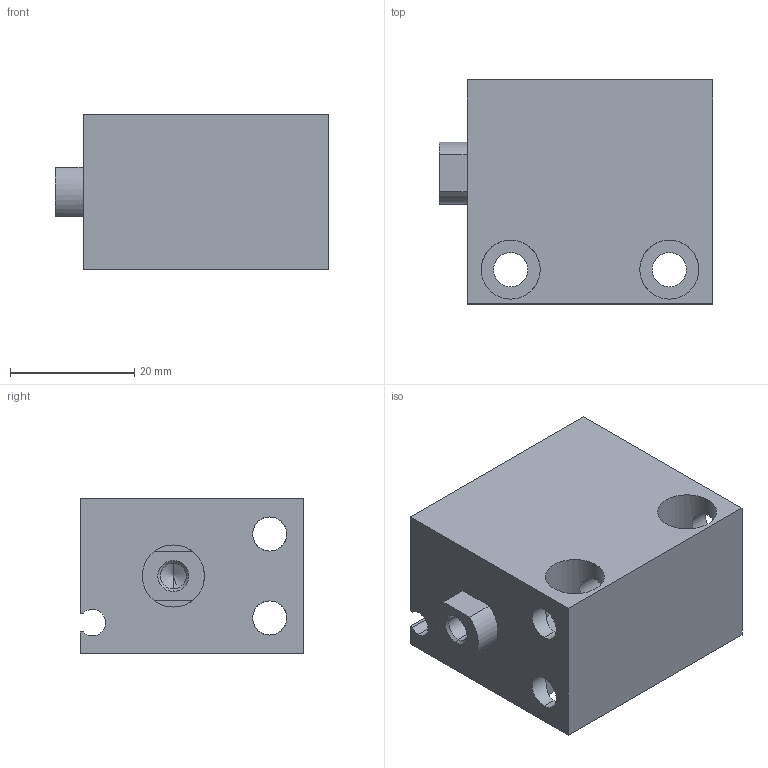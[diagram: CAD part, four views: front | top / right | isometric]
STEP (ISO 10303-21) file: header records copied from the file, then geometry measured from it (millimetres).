
FILE_DESCRIPTION (( 'STEP AP203' ), '1' );
FILE_NAME ('CLJB20-20.STEP', '2020-07-30T19:26:16', ( '' ), ( '' ), 'SwSTEP 2.0', 'SolidWorks 2019', '' );
FILE_SCHEMA (( 'CONFIG_CONTROL_DESIGN' ));
Length unit declared in the file: millimetre
Products named in the file (1): CLJB20-20
Bounding box: 44 x 36 x 25 mm (x, y, z)
Volume: 26479.8 mm3; surface area: 12593.2 mm2
Topology: 2 solids, 2 shells, 75 faces, 188 edges, 113 vertices
Faces by surface type: cylinder 41, plane 22, cone 12
Entity records: 3255 total; most frequent: CARTESIAN_POINT 1359, DIRECTION 394, ORIENTED_EDGE 364, EDGE_CURVE 182, AXIS2_PLACEMENT_3D 152, VERTEX_POINT 113, EDGE_LOOP 93, VECTOR 90
